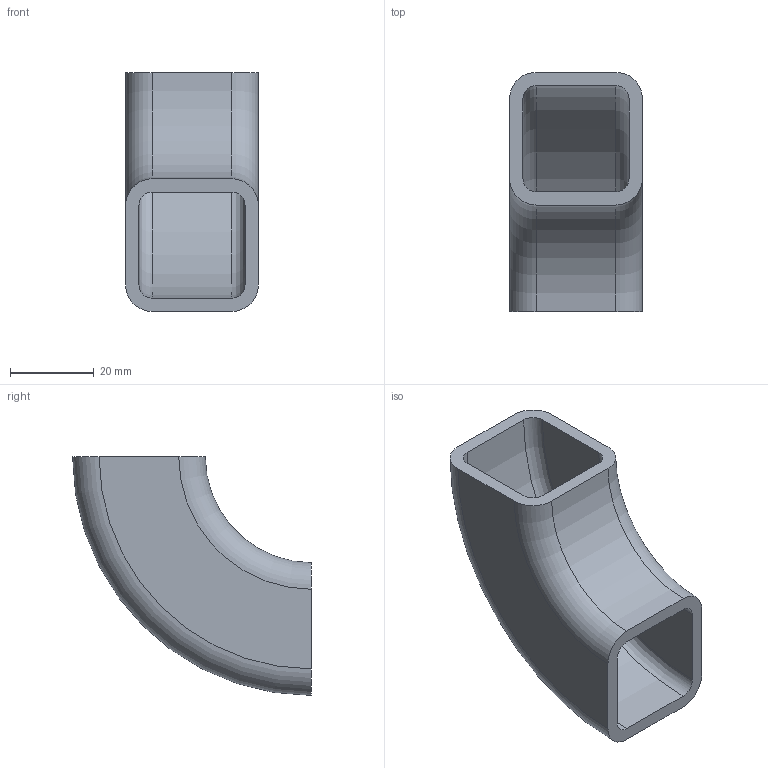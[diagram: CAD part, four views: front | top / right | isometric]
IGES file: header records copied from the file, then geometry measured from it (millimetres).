
Global section: file name: No Iges File Name specified; native system: Autodesk Inventor 2011; preprocessor: AutoDesk Inventor Iges Exporter R2011; author: bamfomg; date: 20110321.072724; units: inch
Bounding box: 31.75 x 57.15 x 57.15 mm (x, y, z)
Volume: 21845.5 mm3; surface area: 14434.9 mm2
Topology: 1 solids, 1 shells, 18 faces, 48 edges, 32 vertices
Faces by surface type: revolution 6, plane 6, torus 4, cylinder 2
